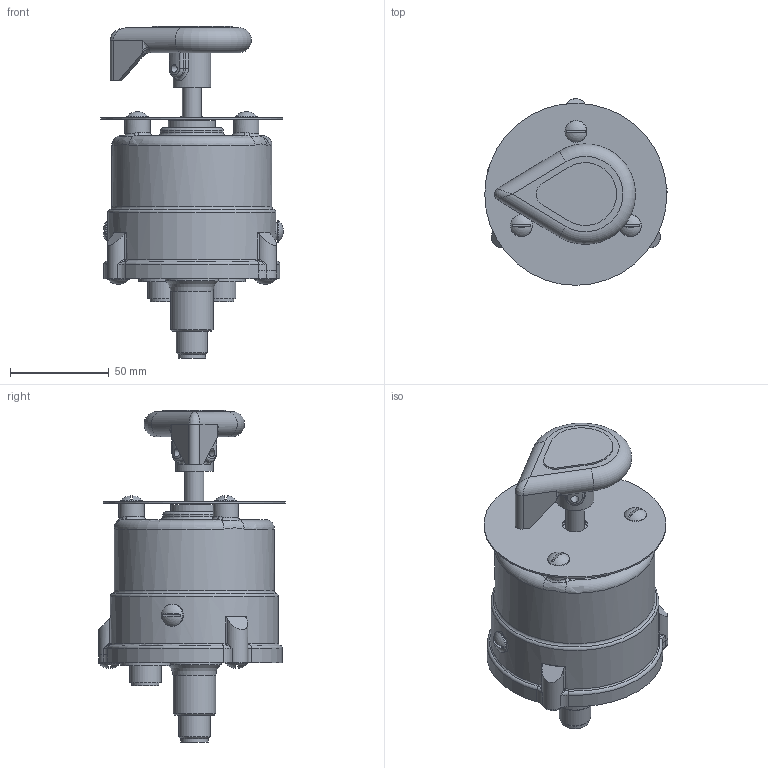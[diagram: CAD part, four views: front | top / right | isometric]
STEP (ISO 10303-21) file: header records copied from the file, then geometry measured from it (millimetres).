
FILE_DESCRIPTION(/* description */ ('Unknown'),/* implementation_level */ '2;1');
FILE_NAME(/* name */ '7422-001_RevE_STEP',/* time_stamp */ '2015-07-27T13:33:36-04:00',/* author */ ('Unknown'),/* organization */ ('Unknown'),/* preprocessor_version */ 'ST-DEVELOPER v16',/* originating_system */ 'DEX',/* authorisation */ $);
FILE_SCHEMA (('AUTOMOTIVE_DESIGN {1 0 10303 214 3 1 1}'));
Length unit declared in the file: inch
Products named in the file (1): 7422-001_3D
Bounding box: 92.23 x 94.46 x 167.83 mm (x, y, z)
Volume: 172774.3 mm3; surface area: 96465.9 mm2
Topology: 1 solids, 16 shells, 601 faces, 1415 edges, 838 vertices
Faces by surface type: cylinder 236, plane 187, bspline 58, torus 54, sphere 42, cone 24
Full cylindrical faces by diameter (mm): 4.039 x8, 4.826 x8, 4.902 x2, 5.105 x3, 5.156 x3, 8.433 x3, 9.525 x2, 9.576 x2, 11.074 x8, 11.112 x3, 11.176 x2, 12.7 x6, 13.716 x2, 13.843 x1, 15.875 x4, 18.796 x1, 18.86 x1, 18.898 x1, 19.05 x3, 20.32 x2, 21.59 x1, 22.174 x2, 22.225 x2, 23.812 x2, 24.003 x1, 25.4 x2, 26.987 x1, 28.575 x1, 31.75 x1, 77 x1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
Entity records: 25159 total; most frequent: CARTESIAN_POINT 8328, DIRECTION 2670, ORIENTED_EDGE 2402, EDGE_CURVE 1201, AXIS2_PLACEMENT_3D 1153, FACE_BOUND 793, EDGE_LOOP 792, VERTEX_POINT 786
